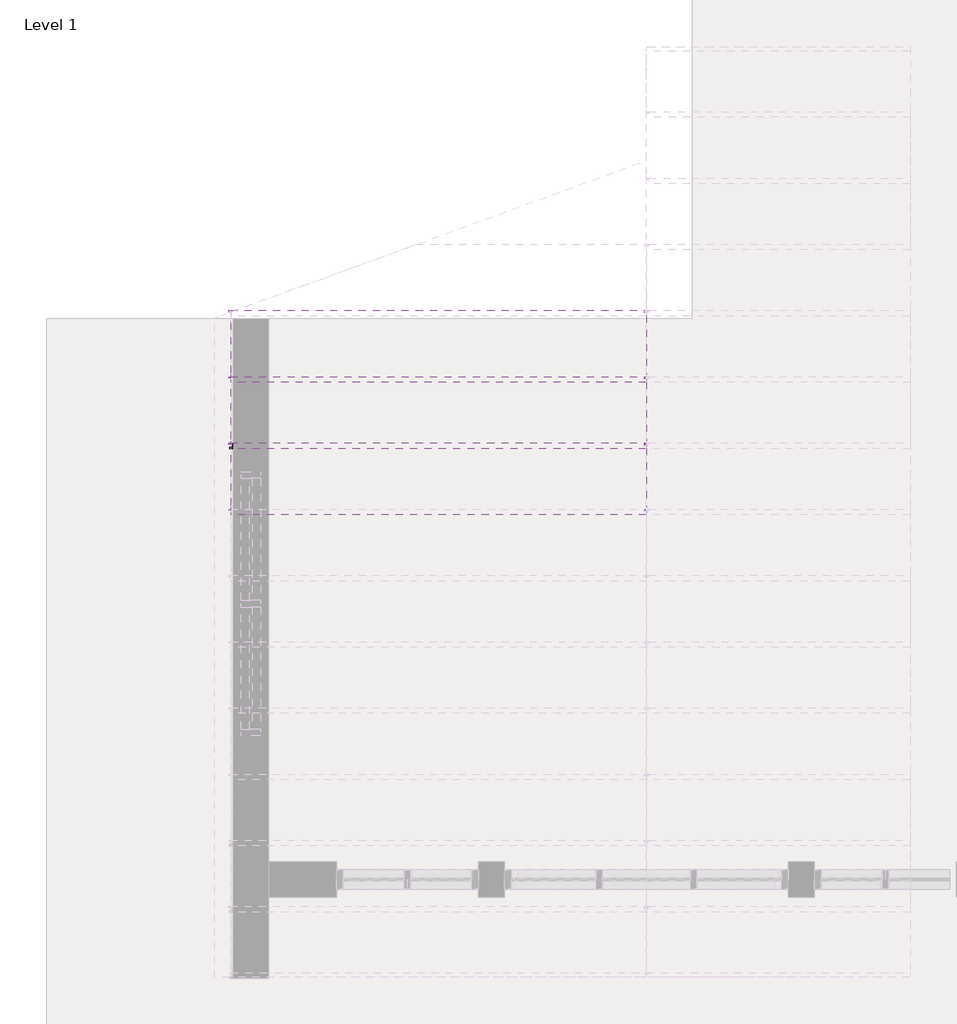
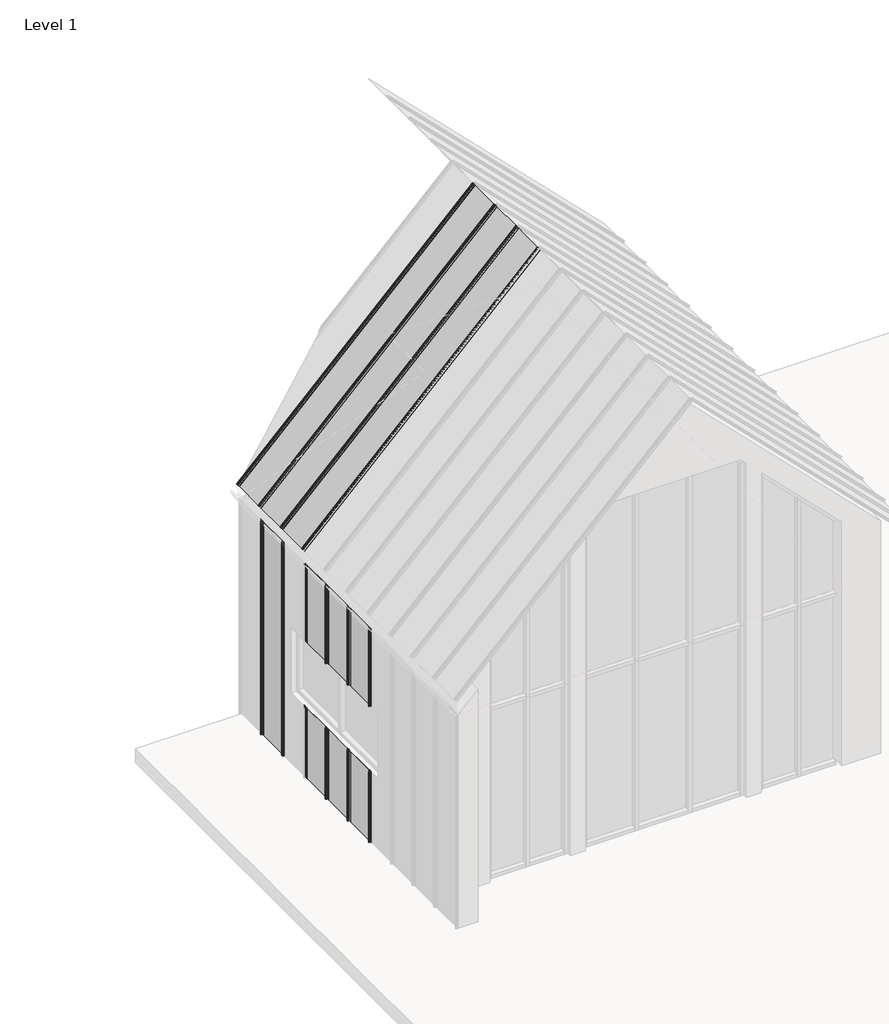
# One storey, part 4 of 22: 7 proxies.
"""IFC4 building model written with IfcOpenShell, lengths in millimetres."""

from ifc_helpers import new_model, si_unit, point, frame, frame_2d, origin, place, context, project, spatial, polyline, circle_curve, trimmed, segment, composite_curve, outline, extrude, transform, mapped, element, save
from components import aqua_8310e829, aqua_52c9d04e

model = new_model("IFC4")

# Units and contexts
model_context = context("Model", 3, world=origin())
ifc_project = project(units=[si_unit("LENGTHUNIT", "METRE", prefix="MILLI")], contexts=[model_context])

# Site, building, storey
site = spatial("IfcSite", under=ifc_project)
building = spatial("IfcBuilding", under=site)
storey = spatial("IfcBuildingStorey", under=building, Name="Level 1", Elevation=0.0)

# Proxies
placement = place(None, origin())
element("IfcBuildingElementProxy", 1, Name="AQUAPLAST - Panel Dachowy i Elewacyjny Aqua : Aqua", ObjectType="AQUAPLAST - Panel Dachowy i Elewacyjny Aqua : Aqua", at=placement, inside=storey, context=model_context, shape_type="SweptSolid", body=[
    extrude(outline(polyline([(-8422.863183, 10712.1494801), (-8422.863183, 11144.3495304), (-8422.063183, 11144.3495304), (-8422.063183, 10712.1494801), (-8422.863183, 10712.1494801)])), frame((0.0, 0.0, 2520.0), z_axis=(0.0, 0.0, 1.0), x_axis=(1.0, 0.0, 0.0)), (0.0, 0.0, 1.0), 1093.0),
    extrude(outline(polyline([(-8422.863183, 10712.1494801), (-8422.863183, 11144.3495304), (-8422.063183, 11144.3495304), (-8422.063183, 10712.1494801), (-8422.863183, 10712.1494801)])), frame((0.0, 0.0, 600.0), z_axis=(0.0, 0.0, 1.0), x_axis=(1.0, 0.0, 0.0)), (0.0, 0.0, 1.0), 998.0),
    extrude(outline(composite_curve([segment(polyline([(-8423.363153, 10684.2496455), (-8445.7635025, 10684.2496455)]), True, "CONTINUOUS"), segment(trimmed(circle_curve(frame_2d((-8445.7635025, 10683.7493222)), 0.5003233), [point((-8445.7635025, 10684.2496455))], [point((-8446.2638258, 10683.7493222))], True, "CARTESIAN"), True, "CONTINUOUS"), segment(polyline([(-8446.2638258, 10683.7493222), (-8446.2638258, 10673.2528028)]), True, "CONTINUOUS"), segment(trimmed(circle_curve(frame_2d((-8445.7625421, 10673.2528028)), 0.5012837), [point((-8446.2638258, 10673.2528028))], [point((-8445.7625421, 10672.7515191))], True, "CARTESIAN"), True, "CONTINUOUS"), segment(polyline([(-8445.7625421, 10672.7515191), (-8431.8481949, 10672.7515191)]), True, "CONTINUOUS"), segment(trimmed(circle_curve(frame_2d((-8431.8481949, 10673.6955317)), 0.9440125), [point((-8431.8481949, 10672.7515191))], [point((-8431.0110473, 10673.259248))], True, "CARTESIAN"), True, "CONTINUOUS"), segment(trimmed(circle_curve(frame_2d((-8427.4769676, 10672.7302878)), 3.5734462), [point((-8431.0110473, 10673.259248))], [point((-8423.9035214, 10672.7302878))], False, "CARTESIAN"), True, "CONTINUOUS"), segment(polyline([(-8423.9035214, 10672.7302878), (-8424.7037623, 10672.7302878)]), True, "CONTINUOUS"), segment(trimmed(circle_curve(frame_2d((-8427.4479694, 10672.7302878)), 2.7442071), [point((-8424.7037623, 10672.7302878))], [point((-8430.1921764, 10672.7302878))], True, "CARTESIAN"), True, "CONTINUOUS"), segment(trimmed(circle_curve(frame_2d((-8430.8671054, 10672.7244344)), 0.6749543), [point((-8430.1921764, 10672.7302878))], [point((-8430.8671054, 10672.0494801))], False, "CARTESIAN"), True, "CONTINUOUS"), segment(polyline([(-8430.8671054, 10672.0494801), (-8446.563183, 10672.0494801)]), True, "CONTINUOUS"), segment(trimmed(circle_curve(frame_2d((-8446.563183, 10672.5494801)), 0.5), [point((-8446.563183, 10672.0494801))], [point((-8447.063183, 10672.5494801))], False, "CARTESIAN"), True, "CONTINUOUS"), segment(polyline([(-8447.063183, 10672.5494801), (-8447.063183, 10684.5494801)]), True, "CONTINUOUS"), segment(trimmed(circle_curve(frame_2d((-8446.563183, 10684.5494801)), 0.5), [point((-8447.063183, 10684.5494801))], [point((-8446.563183, 10685.0494801))], False, "CARTESIAN"), True, "CONTINUOUS"), segment(polyline([(-8446.563183, 10685.0494801), (-8424.163183, 10685.0494801)]), True, "CONTINUOUS"), segment(trimmed(circle_curve(frame_2d((-8424.163183, 10685.5494801)), 0.5), [point((-8424.163183, 10685.0494801))], [point((-8423.663183, 10685.5494801))], True, "CARTESIAN"), True, "CONTINUOUS"), segment(polyline([(-8423.663183, 10685.5494801), (-8423.663183, 10708.6494801), (-8422.863183, 10712.1494801), (-8422.063183, 10712.1494801), (-8422.8632432, 10708.6494801), (-8422.8632432, 10684.7495553)]), True, "CONTINUOUS"), segment(trimmed(circle_curve(frame_2d((-8423.363153, 10684.7495553)), 0.4999098), [point((-8422.8632432, 10684.7495553))], [point((-8423.363153, 10684.2496455))], False, "CARTESIAN"), True, "CONTINUOUS")], self_intersect=False)), frame((0.0, 0.0, 600.0), z_axis=(0.0, 0.0, 1.0), x_axis=(1.0, 0.0, 0.0)), (0.0, 0.0, 1.0), 998.0),
    extrude(outline(composite_curve([segment(polyline([(-8422.863183, 10712.1494801), (-8422.063183, 10712.1494801), (-8422.8632432, 10708.6494801), (-8422.8632432, 10684.7495553)]), True, "CONTINUOUS"), segment(trimmed(circle_curve(frame_2d((-8423.363153, 10684.7495553)), 0.4999098), [point((-8422.8632432, 10684.7495553))], [point((-8423.363153, 10684.2496455))], False, "CARTESIAN"), True, "CONTINUOUS"), segment(polyline([(-8423.363153, 10684.2496455), (-8445.7635025, 10684.2496455)]), True, "CONTINUOUS"), segment(trimmed(circle_curve(frame_2d((-8445.7635025, 10683.7493222)), 0.5003233), [point((-8445.7635025, 10684.2496455))], [point((-8446.2638258, 10683.7493222))], True, "CARTESIAN"), True, "CONTINUOUS"), segment(polyline([(-8446.2638258, 10683.7493222), (-8446.2638258, 10673.2528028)]), True, "CONTINUOUS"), segment(trimmed(circle_curve(frame_2d((-8445.7625421, 10673.2528028)), 0.5012837), [point((-8446.2638258, 10673.2528028))], [point((-8445.7625421, 10672.7515191))], True, "CARTESIAN"), True, "CONTINUOUS"), segment(polyline([(-8445.7625421, 10672.7515191), (-8431.8481949, 10672.7515191)]), True, "CONTINUOUS"), segment(trimmed(circle_curve(frame_2d((-8431.8481949, 10673.6955317)), 0.9440125), [point((-8431.8481949, 10672.7515191))], [point((-8431.0110473, 10673.259248))], True, "CARTESIAN"), True, "CONTINUOUS"), segment(trimmed(circle_curve(frame_2d((-8427.4769676, 10672.7302878)), 3.5734462), [point((-8431.0110473, 10673.259248))], [point((-8423.9035214, 10672.7302878))], False, "CARTESIAN"), True, "CONTINUOUS"), segment(polyline([(-8423.9035214, 10672.7302878), (-8424.7037623, 10672.7302878)]), True, "CONTINUOUS"), segment(trimmed(circle_curve(frame_2d((-8427.4479694, 10672.7302878)), 2.7442071), [point((-8424.7037623, 10672.7302878))], [point((-8430.1921764, 10672.7302878))], True, "CARTESIAN"), True, "CONTINUOUS"), segment(trimmed(circle_curve(frame_2d((-8430.8671054, 10672.7244344)), 0.6749543), [point((-8430.1921764, 10672.7302878))], [point((-8430.8671054, 10672.0494801))], False, "CARTESIAN"), True, "CONTINUOUS"), segment(polyline([(-8430.8671054, 10672.0494801), (-8446.563183, 10672.0494801)]), True, "CONTINUOUS"), segment(trimmed(circle_curve(frame_2d((-8446.563183, 10672.5494801)), 0.5), [point((-8446.563183, 10672.0494801))], [point((-8447.063183, 10672.5494801))], False, "CARTESIAN"), True, "CONTINUOUS"), segment(polyline([(-8447.063183, 10672.5494801), (-8447.063183, 10684.5494801)]), True, "CONTINUOUS"), segment(trimmed(circle_curve(frame_2d((-8446.563183, 10684.5494801)), 0.5), [point((-8447.063183, 10684.5494801))], [point((-8446.563183, 10685.0494801))], False, "CARTESIAN"), True, "CONTINUOUS"), segment(polyline([(-8446.563183, 10685.0494801), (-8424.163183, 10685.0494801)]), True, "CONTINUOUS"), segment(trimmed(circle_curve(frame_2d((-8424.163183, 10685.5494801)), 0.5), [point((-8424.163183, 10685.0494801))], [point((-8423.663183, 10685.5494801))], True, "CARTESIAN"), True, "CONTINUOUS"), segment(polyline([(-8423.663183, 10685.5494801), (-8423.663183, 10708.6494801), (-8422.863183, 10712.1494801)]), True, "CONTINUOUS")], self_intersect=False)), frame((0.0, 0.0, 2520.0), z_axis=(0.0, 0.0, 1.0), x_axis=(1.0, 0.0, 0.0)), (0.0, 0.0, 1.0), 1093.0),
    extrude(outline(composite_curve([segment(polyline([(-8422.863183, 11217.0494801), (-8422.063183, 11217.0494801), (-8422.063183, 11185.7842474)]), True, "CONTINUOUS"), segment(trimmed(circle_curve(frame_2d((-8422.8032039, 11185.7842474)), 0.7400208), [point((-8422.063183, 11185.7842474))], [point((-8422.6873647, 11185.0533492))], False, "CARTESIAN"), True, "CONTINUOUS"), segment(polyline([(-8422.6873647, 11185.0533492), (-8440.5435157, 11182.2233498)]), True, "CONTINUOUS"), segment(trimmed(circle_curve(frame_2d((-8440.2450447, 11180.340119)), 1.9067363), [point((-8440.5435157, 11182.2233498))], [point((-8441.1984129, 11178.688837))], True, "CARTESIAN"), True, "CONTINUOUS"), segment(polyline([(-8441.1984129, 11178.688837), (-8433.9565909, 11175.7770733)]), True, "CONTINUOUS"), segment(trimmed(circle_curve(frame_2d((-8433.3308509, 11177.3333458)), 1.6773594), [point((-8433.9565909, 11175.7770733))], [point((-8431.8145704, 11176.6161094))], True, "CARTESIAN"), True, "CONTINUOUS"), segment(trimmed(circle_curve(frame_2d((-8427.5646191, 11174.6057822)), 4.7014361), [point((-8431.8145704, 11176.6161094))], [point((-8422.863183, 11174.6057822))], False, "CARTESIAN"), True, "CONTINUOUS"), segment(polyline([(-8422.863183, 11174.6057822), (-8422.863183, 11147.8495304), (-8422.063183, 11144.3495304), (-8422.863183, 11144.3495304), (-8423.663183, 11147.8495304), (-8423.663183, 11174.7649576)]), True, "CONTINUOUS"), segment(trimmed(circle_curve(frame_2d((-8427.5299142, 11174.7649576)), 3.8667311), [point((-8423.663183, 11174.7649576))], [point((-8431.0655924, 11176.3303934))], True, "CARTESIAN"), True, "CONTINUOUS"), segment(trimmed(circle_curve(frame_2d((-8433.3308509, 11177.3333458)), 2.4773594), [point((-8431.0655924, 11176.3303934))], [point((-8434.257346, 11175.0357565))], False, "CARTESIAN"), True, "CONTINUOUS"), segment(polyline([(-8434.257346, 11175.0357565), (-8441.5984129, 11177.9960166)]), True, "CONTINUOUS"), segment(trimmed(circle_curve(frame_2d((-8440.2450447, 11180.340119)), 2.7067363), [point((-8441.5984129, 11177.9960166))], [point((-8440.8285384, 11182.983215))], False, "CARTESIAN"), True, "CONTINUOUS"), segment(polyline([(-8440.8285384, 11182.983215), (-8423.4133146, 11186.0161717)]), True, "CONTINUOUS"), segment(trimmed(circle_curve(frame_2d((-8423.5272506, 11186.6703921)), 0.6640676), [point((-8423.4133146, 11186.0161717))], [point((-8422.863183, 11186.6703921))], True, "CARTESIAN"), True, "CONTINUOUS"), segment(polyline([(-8422.863183, 11186.6703921), (-8422.863183, 11217.0494801)]), True, "CONTINUOUS")], self_intersect=False)), frame((0.0, 0.0, 2520.0), z_axis=(0.0, 0.0, 1.0), x_axis=(1.0, 0.0, 0.0)), (0.0, 0.0, 1.0), 1093.0),
    extrude(outline(composite_curve([segment(polyline([(-8422.863183, 11217.0494801), (-8422.063183, 11217.0494801), (-8422.063183, 11185.7842474)]), True, "CONTINUOUS"), segment(trimmed(circle_curve(frame_2d((-8422.8032039, 11185.7842474)), 0.7400208), [point((-8422.063183, 11185.7842474))], [point((-8422.6873647, 11185.0533492))], False, "CARTESIAN"), True, "CONTINUOUS"), segment(polyline([(-8422.6873647, 11185.0533492), (-8440.5435157, 11182.2233498)]), True, "CONTINUOUS"), segment(trimmed(circle_curve(frame_2d((-8440.2450447, 11180.340119)), 1.9067363), [point((-8440.5435157, 11182.2233498))], [point((-8441.1984129, 11178.688837))], True, "CARTESIAN"), True, "CONTINUOUS"), segment(polyline([(-8441.1984129, 11178.688837), (-8433.9565909, 11175.7770733)]), True, "CONTINUOUS"), segment(trimmed(circle_curve(frame_2d((-8433.3308509, 11177.3333458)), 1.6773594), [point((-8433.9565909, 11175.7770733))], [point((-8431.8145704, 11176.6161094))], True, "CARTESIAN"), True, "CONTINUOUS"), segment(trimmed(circle_curve(frame_2d((-8427.5646191, 11174.6057822)), 4.7014361), [point((-8431.8145704, 11176.6161094))], [point((-8422.863183, 11174.6057822))], False, "CARTESIAN"), True, "CONTINUOUS"), segment(polyline([(-8422.863183, 11174.6057822), (-8422.863183, 11147.8495304), (-8422.063183, 11144.3495304), (-8422.863183, 11144.3495304), (-8423.663183, 11147.8495304), (-8423.663183, 11174.7649576)]), True, "CONTINUOUS"), segment(trimmed(circle_curve(frame_2d((-8427.5299142, 11174.7649576)), 3.8667311), [point((-8423.663183, 11174.7649576))], [point((-8431.0655924, 11176.3303934))], True, "CARTESIAN"), True, "CONTINUOUS"), segment(trimmed(circle_curve(frame_2d((-8433.3308509, 11177.3333458)), 2.4773594), [point((-8431.0655924, 11176.3303934))], [point((-8434.257346, 11175.0357565))], False, "CARTESIAN"), True, "CONTINUOUS"), segment(polyline([(-8434.257346, 11175.0357565), (-8441.5984129, 11177.9960166)]), True, "CONTINUOUS"), segment(trimmed(circle_curve(frame_2d((-8440.2450447, 11180.340119)), 2.7067363), [point((-8441.5984129, 11177.9960166))], [point((-8440.8285384, 11182.983215))], False, "CARTESIAN"), True, "CONTINUOUS"), segment(polyline([(-8440.8285384, 11182.983215), (-8423.4133146, 11186.0161717)]), True, "CONTINUOUS"), segment(trimmed(circle_curve(frame_2d((-8423.5272506, 11186.6703921)), 0.6640676), [point((-8423.4133146, 11186.0161717))], [point((-8422.863183, 11186.6703921))], True, "CARTESIAN"), True, "CONTINUOUS"), segment(polyline([(-8422.863183, 11186.6703921), (-8422.863183, 11217.0494801)]), True, "CONTINUOUS")], self_intersect=False)), frame((0.0, 0.0, 600.0), z_axis=(0.0, 0.0, 1.0), x_axis=(1.0, 0.0, 0.0)), (0.0, 0.0, 1.0), 998.0),
])
element("IfcBuildingElementProxy", 2, Name="AQUAPLAST - Panel Dachowy i Elewacyjny Aqua : Aqua", ObjectType="AQUAPLAST - Panel Dachowy i Elewacyjny Aqua : Aqua", at=placement, inside=storey, context=model_context, shape_type="SweptSolid", body=[
    extrude(outline(polyline([(-8422.863183, 11214.1494801), (-8422.863183, 11646.3495304), (-8422.063183, 11646.3495304), (-8422.063183, 11214.1494801), (-8422.863183, 11214.1494801)])), frame((0.0, 0.0, 2520.0), z_axis=(0.0, 0.0, 1.0), x_axis=(1.0, 0.0, 0.0)), (0.0, 0.0, 1.0), 1093.0),
    extrude(outline(polyline([(-8422.863183, 11214.1494801), (-8422.863183, 11646.3495304), (-8422.063183, 11646.3495304), (-8422.063183, 11214.1494801), (-8422.863183, 11214.1494801)])), frame((0.0, 0.0, 600.0), z_axis=(0.0, 0.0, 1.0), x_axis=(1.0, 0.0, 0.0)), (0.0, 0.0, 1.0), 998.0),
    extrude(outline(composite_curve([segment(polyline([(-8423.363153, 11186.2496455), (-8445.7635025, 11186.2496455)]), True, "CONTINUOUS"), segment(trimmed(circle_curve(frame_2d((-8445.7635025, 11185.7493222)), 0.5003233), [point((-8445.7635025, 11186.2496455))], [point((-8446.2638258, 11185.7493222))], True, "CARTESIAN"), True, "CONTINUOUS"), segment(polyline([(-8446.2638258, 11185.7493222), (-8446.2638258, 11175.2528028)]), True, "CONTINUOUS"), segment(trimmed(circle_curve(frame_2d((-8445.7625421, 11175.2528028)), 0.5012837), [point((-8446.2638258, 11175.2528028))], [point((-8445.7625421, 11174.7515191))], True, "CARTESIAN"), True, "CONTINUOUS"), segment(polyline([(-8445.7625421, 11174.7515191), (-8431.8481949, 11174.7515191)]), True, "CONTINUOUS"), segment(trimmed(circle_curve(frame_2d((-8431.8481949, 11175.6955317)), 0.9440125), [point((-8431.8481949, 11174.7515191))], [point((-8431.0110473, 11175.259248))], True, "CARTESIAN"), True, "CONTINUOUS"), segment(trimmed(circle_curve(frame_2d((-8427.4769676, 11174.7302878)), 3.5734462), [point((-8431.0110473, 11175.259248))], [point((-8423.9035214, 11174.7302878))], False, "CARTESIAN"), True, "CONTINUOUS"), segment(polyline([(-8423.9035214, 11174.7302878), (-8424.7037623, 11174.7302878)]), True, "CONTINUOUS"), segment(trimmed(circle_curve(frame_2d((-8427.4479694, 11174.7302878)), 2.7442071), [point((-8424.7037623, 11174.7302878))], [point((-8430.1921764, 11174.7302878))], True, "CARTESIAN"), True, "CONTINUOUS"), segment(trimmed(circle_curve(frame_2d((-8430.8671054, 11174.7244344)), 0.6749543), [point((-8430.1921764, 11174.7302878))], [point((-8430.8671054, 11174.0494801))], False, "CARTESIAN"), True, "CONTINUOUS"), segment(polyline([(-8430.8671054, 11174.0494801), (-8446.563183, 11174.0494801)]), True, "CONTINUOUS"), segment(trimmed(circle_curve(frame_2d((-8446.563183, 11174.5494801)), 0.5), [point((-8446.563183, 11174.0494801))], [point((-8447.063183, 11174.5494801))], False, "CARTESIAN"), True, "CONTINUOUS"), segment(polyline([(-8447.063183, 11174.5494801), (-8447.063183, 11186.5494801)]), True, "CONTINUOUS"), segment(trimmed(circle_curve(frame_2d((-8446.563183, 11186.5494801)), 0.5), [point((-8447.063183, 11186.5494801))], [point((-8446.563183, 11187.0494801))], False, "CARTESIAN"), True, "CONTINUOUS"), segment(polyline([(-8446.563183, 11187.0494801), (-8424.163183, 11187.0494801)]), True, "CONTINUOUS"), segment(trimmed(circle_curve(frame_2d((-8424.163183, 11187.5494801)), 0.5), [point((-8424.163183, 11187.0494801))], [point((-8423.663183, 11187.5494801))], True, "CARTESIAN"), True, "CONTINUOUS"), segment(polyline([(-8423.663183, 11187.5494801), (-8423.663183, 11210.6494801), (-8422.863183, 11214.1494801), (-8422.063183, 11214.1494801), (-8422.8632432, 11210.6494801), (-8422.8632432, 11186.7495553)]), True, "CONTINUOUS"), segment(trimmed(circle_curve(frame_2d((-8423.363153, 11186.7495553)), 0.4999098), [point((-8422.8632432, 11186.7495553))], [point((-8423.363153, 11186.2496455))], False, "CARTESIAN"), True, "CONTINUOUS")], self_intersect=False)), frame((0.0, 0.0, 600.0), z_axis=(0.0, 0.0, 1.0), x_axis=(1.0, 0.0, 0.0)), (0.0, 0.0, 1.0), 998.0),
    extrude(outline(composite_curve([segment(polyline([(-8422.863183, 11214.1494801), (-8422.063183, 11214.1494801), (-8422.8632432, 11210.6494801), (-8422.8632432, 11186.7495553)]), True, "CONTINUOUS"), segment(trimmed(circle_curve(frame_2d((-8423.363153, 11186.7495553)), 0.4999098), [point((-8422.8632432, 11186.7495553))], [point((-8423.363153, 11186.2496455))], False, "CARTESIAN"), True, "CONTINUOUS"), segment(polyline([(-8423.363153, 11186.2496455), (-8445.7635025, 11186.2496455)]), True, "CONTINUOUS"), segment(trimmed(circle_curve(frame_2d((-8445.7635025, 11185.7493222)), 0.5003233), [point((-8445.7635025, 11186.2496455))], [point((-8446.2638258, 11185.7493222))], True, "CARTESIAN"), True, "CONTINUOUS"), segment(polyline([(-8446.2638258, 11185.7493222), (-8446.2638258, 11175.2528028)]), True, "CONTINUOUS"), segment(trimmed(circle_curve(frame_2d((-8445.7625421, 11175.2528028)), 0.5012837), [point((-8446.2638258, 11175.2528028))], [point((-8445.7625421, 11174.7515191))], True, "CARTESIAN"), True, "CONTINUOUS"), segment(polyline([(-8445.7625421, 11174.7515191), (-8431.8481949, 11174.7515191)]), True, "CONTINUOUS"), segment(trimmed(circle_curve(frame_2d((-8431.8481949, 11175.6955317)), 0.9440125), [point((-8431.8481949, 11174.7515191))], [point((-8431.0110473, 11175.259248))], True, "CARTESIAN"), True, "CONTINUOUS"), segment(trimmed(circle_curve(frame_2d((-8427.4769676, 11174.7302878)), 3.5734462), [point((-8431.0110473, 11175.259248))], [point((-8423.9035214, 11174.7302878))], False, "CARTESIAN"), True, "CONTINUOUS"), segment(polyline([(-8423.9035214, 11174.7302878), (-8424.7037623, 11174.7302878)]), True, "CONTINUOUS"), segment(trimmed(circle_curve(frame_2d((-8427.4479694, 11174.7302878)), 2.7442071), [point((-8424.7037623, 11174.7302878))], [point((-8430.1921764, 11174.7302878))], True, "CARTESIAN"), True, "CONTINUOUS"), segment(trimmed(circle_curve(frame_2d((-8430.8671054, 11174.7244344)), 0.6749543), [point((-8430.1921764, 11174.7302878))], [point((-8430.8671054, 11174.0494801))], False, "CARTESIAN"), True, "CONTINUOUS"), segment(polyline([(-8430.8671054, 11174.0494801), (-8446.563183, 11174.0494801)]), True, "CONTINUOUS"), segment(trimmed(circle_curve(frame_2d((-8446.563183, 11174.5494801)), 0.5), [point((-8446.563183, 11174.0494801))], [point((-8447.063183, 11174.5494801))], False, "CARTESIAN"), True, "CONTINUOUS"), segment(polyline([(-8447.063183, 11174.5494801), (-8447.063183, 11186.5494801)]), True, "CONTINUOUS"), segment(trimmed(circle_curve(frame_2d((-8446.563183, 11186.5494801)), 0.5), [point((-8447.063183, 11186.5494801))], [point((-8446.563183, 11187.0494801))], False, "CARTESIAN"), True, "CONTINUOUS"), segment(polyline([(-8446.563183, 11187.0494801), (-8424.163183, 11187.0494801)]), True, "CONTINUOUS"), segment(trimmed(circle_curve(frame_2d((-8424.163183, 11187.5494801)), 0.5), [point((-8424.163183, 11187.0494801))], [point((-8423.663183, 11187.5494801))], True, "CARTESIAN"), True, "CONTINUOUS"), segment(polyline([(-8423.663183, 11187.5494801), (-8423.663183, 11210.6494801), (-8422.863183, 11214.1494801)]), True, "CONTINUOUS")], self_intersect=False)), frame((0.0, 0.0, 2520.0), z_axis=(0.0, 0.0, 1.0), x_axis=(1.0, 0.0, 0.0)), (0.0, 0.0, 1.0), 1093.0),
    extrude(outline(composite_curve([segment(polyline([(-8422.863183, 11719.0494801), (-8422.063183, 11719.0494801), (-8422.063183, 11687.7842474)]), True, "CONTINUOUS"), segment(trimmed(circle_curve(frame_2d((-8422.8032039, 11687.7842474)), 0.7400208), [point((-8422.063183, 11687.7842474))], [point((-8422.6873647, 11687.0533492))], False, "CARTESIAN"), True, "CONTINUOUS"), segment(polyline([(-8422.6873647, 11687.0533492), (-8440.5435157, 11684.2233498)]), True, "CONTINUOUS"), segment(trimmed(circle_curve(frame_2d((-8440.2450447, 11682.340119)), 1.9067363), [point((-8440.5435157, 11684.2233498))], [point((-8441.1984129, 11680.688837))], True, "CARTESIAN"), True, "CONTINUOUS"), segment(polyline([(-8441.1984129, 11680.688837), (-8433.9565909, 11677.7770733)]), True, "CONTINUOUS"), segment(trimmed(circle_curve(frame_2d((-8433.3308509, 11679.3333458)), 1.6773594), [point((-8433.9565909, 11677.7770733))], [point((-8431.8145704, 11678.6161094))], True, "CARTESIAN"), True, "CONTINUOUS"), segment(trimmed(circle_curve(frame_2d((-8427.5646191, 11676.6057822)), 4.7014361), [point((-8431.8145704, 11678.6161094))], [point((-8422.863183, 11676.6057822))], False, "CARTESIAN"), True, "CONTINUOUS"), segment(polyline([(-8422.863183, 11676.6057822), (-8422.863183, 11649.8495304), (-8422.063183, 11646.3495304), (-8422.863183, 11646.3495304), (-8423.663183, 11649.8495304), (-8423.663183, 11676.7649576)]), True, "CONTINUOUS"), segment(trimmed(circle_curve(frame_2d((-8427.5299142, 11676.7649576)), 3.8667311), [point((-8423.663183, 11676.7649576))], [point((-8431.0655924, 11678.3303934))], True, "CARTESIAN"), True, "CONTINUOUS"), segment(trimmed(circle_curve(frame_2d((-8433.3308509, 11679.3333458)), 2.4773594), [point((-8431.0655924, 11678.3303934))], [point((-8434.257346, 11677.0357565))], False, "CARTESIAN"), True, "CONTINUOUS"), segment(polyline([(-8434.257346, 11677.0357565), (-8441.5984129, 11679.9960166)]), True, "CONTINUOUS"), segment(trimmed(circle_curve(frame_2d((-8440.2450447, 11682.340119)), 2.7067363), [point((-8441.5984129, 11679.9960166))], [point((-8440.8285384, 11684.983215))], False, "CARTESIAN"), True, "CONTINUOUS"), segment(polyline([(-8440.8285384, 11684.983215), (-8423.4133146, 11688.0161717)]), True, "CONTINUOUS"), segment(trimmed(circle_curve(frame_2d((-8423.5272506, 11688.6703921)), 0.6640676), [point((-8423.4133146, 11688.0161717))], [point((-8422.863183, 11688.6703921))], True, "CARTESIAN"), True, "CONTINUOUS"), segment(polyline([(-8422.863183, 11688.6703921), (-8422.863183, 11719.0494801)]), True, "CONTINUOUS")], self_intersect=False)), frame((0.0, 0.0, 2520.0), z_axis=(0.0, 0.0, 1.0), x_axis=(1.0, 0.0, 0.0)), (0.0, 0.0, 1.0), 1093.0),
    extrude(outline(composite_curve([segment(polyline([(-8422.863183, 11719.0494801), (-8422.063183, 11719.0494801), (-8422.063183, 11687.7842474)]), True, "CONTINUOUS"), segment(trimmed(circle_curve(frame_2d((-8422.8032039, 11687.7842474)), 0.7400208), [point((-8422.063183, 11687.7842474))], [point((-8422.6873647, 11687.0533492))], False, "CARTESIAN"), True, "CONTINUOUS"), segment(polyline([(-8422.6873647, 11687.0533492), (-8440.5435157, 11684.2233498)]), True, "CONTINUOUS"), segment(trimmed(circle_curve(frame_2d((-8440.2450447, 11682.340119)), 1.9067363), [point((-8440.5435157, 11684.2233498))], [point((-8441.1984129, 11680.688837))], True, "CARTESIAN"), True, "CONTINUOUS"), segment(polyline([(-8441.1984129, 11680.688837), (-8433.9565909, 11677.7770733)]), True, "CONTINUOUS"), segment(trimmed(circle_curve(frame_2d((-8433.3308509, 11679.3333458)), 1.6773594), [point((-8433.9565909, 11677.7770733))], [point((-8431.8145704, 11678.6161094))], True, "CARTESIAN"), True, "CONTINUOUS"), segment(trimmed(circle_curve(frame_2d((-8427.5646191, 11676.6057822)), 4.7014361), [point((-8431.8145704, 11678.6161094))], [point((-8422.863183, 11676.6057822))], False, "CARTESIAN"), True, "CONTINUOUS"), segment(polyline([(-8422.863183, 11676.6057822), (-8422.863183, 11649.8495304), (-8422.063183, 11646.3495304), (-8422.863183, 11646.3495304), (-8423.663183, 11649.8495304), (-8423.663183, 11676.7649576)]), True, "CONTINUOUS"), segment(trimmed(circle_curve(frame_2d((-8427.5299142, 11676.7649576)), 3.8667311), [point((-8423.663183, 11676.7649576))], [point((-8431.0655924, 11678.3303934))], True, "CARTESIAN"), True, "CONTINUOUS"), segment(trimmed(circle_curve(frame_2d((-8433.3308509, 11679.3333458)), 2.4773594), [point((-8431.0655924, 11678.3303934))], [point((-8434.257346, 11677.0357565))], False, "CARTESIAN"), True, "CONTINUOUS"), segment(polyline([(-8434.257346, 11677.0357565), (-8441.5984129, 11679.9960166)]), True, "CONTINUOUS"), segment(trimmed(circle_curve(frame_2d((-8440.2450447, 11682.340119)), 2.7067363), [point((-8441.5984129, 11679.9960166))], [point((-8440.8285384, 11684.983215))], False, "CARTESIAN"), True, "CONTINUOUS"), segment(polyline([(-8440.8285384, 11684.983215), (-8423.4133146, 11688.0161717)]), True, "CONTINUOUS"), segment(trimmed(circle_curve(frame_2d((-8423.5272506, 11688.6703921)), 0.6640676), [point((-8423.4133146, 11688.0161717))], [point((-8422.863183, 11688.6703921))], True, "CARTESIAN"), True, "CONTINUOUS"), segment(polyline([(-8422.863183, 11688.6703921), (-8422.863183, 11719.0494801)]), True, "CONTINUOUS")], self_intersect=False)), frame((0.0, 0.0, 600.0), z_axis=(0.0, 0.0, 1.0), x_axis=(1.0, 0.0, 0.0)), (0.0, 0.0, 1.0), 998.0),
])
element("IfcBuildingElementProxy", 3, Name="AQUAPLAST - Panel Dachowy i Elewacyjny Aqua : Aqua", ObjectType="AQUAPLAST - Panel Dachowy i Elewacyjny Aqua : Aqua", at=placement, inside=storey, context=model_context, shape_type="SweptSolid", body=[
    extrude(outline(polyline([(-8422.863183, 11716.1494801), (-8422.863183, 12148.3495304), (-8422.063183, 12148.3495304), (-8422.063183, 11716.1494801), (-8422.863183, 11716.1494801)])), frame((0.0, 0.0, 2520.0), z_axis=(0.0, 0.0, 1.0), x_axis=(1.0, 0.0, 0.0)), (0.0, 0.0, 1.0), 1093.0),
    extrude(outline(polyline([(-8422.863183, 11716.1494801), (-8422.863183, 12148.3495304), (-8422.063183, 12148.3495304), (-8422.063183, 11716.1494801), (-8422.863183, 11716.1494801)])), frame((0.0, 0.0, 600.0), z_axis=(0.0, 0.0, 1.0), x_axis=(1.0, 0.0, 0.0)), (0.0, 0.0, 1.0), 998.0),
    extrude(outline(composite_curve([segment(polyline([(-8423.363153, 11688.2496455), (-8445.7635025, 11688.2496455)]), True, "CONTINUOUS"), segment(trimmed(circle_curve(frame_2d((-8445.7635025, 11687.7493222)), 0.5003233), [point((-8445.7635025, 11688.2496455))], [point((-8446.2638258, 11687.7493222))], True, "CARTESIAN"), True, "CONTINUOUS"), segment(polyline([(-8446.2638258, 11687.7493222), (-8446.2638258, 11677.2528028)]), True, "CONTINUOUS"), segment(trimmed(circle_curve(frame_2d((-8445.7625421, 11677.2528028)), 0.5012837), [point((-8446.2638258, 11677.2528028))], [point((-8445.7625421, 11676.7515191))], True, "CARTESIAN"), True, "CONTINUOUS"), segment(polyline([(-8445.7625421, 11676.7515191), (-8431.8481949, 11676.7515191)]), True, "CONTINUOUS"), segment(trimmed(circle_curve(frame_2d((-8431.8481949, 11677.6955317)), 0.9440125), [point((-8431.8481949, 11676.7515191))], [point((-8431.0110473, 11677.259248))], True, "CARTESIAN"), True, "CONTINUOUS"), segment(trimmed(circle_curve(frame_2d((-8427.4769676, 11676.7302878)), 3.5734462), [point((-8431.0110473, 11677.259248))], [point((-8423.9035214, 11676.7302878))], False, "CARTESIAN"), True, "CONTINUOUS"), segment(polyline([(-8423.9035214, 11676.7302878), (-8424.7037623, 11676.7302878)]), True, "CONTINUOUS"), segment(trimmed(circle_curve(frame_2d((-8427.4479694, 11676.7302878)), 2.7442071), [point((-8424.7037623, 11676.7302878))], [point((-8430.1921764, 11676.7302878))], True, "CARTESIAN"), True, "CONTINUOUS"), segment(trimmed(circle_curve(frame_2d((-8430.8671054, 11676.7244344)), 0.6749543), [point((-8430.1921764, 11676.7302878))], [point((-8430.8671054, 11676.0494801))], False, "CARTESIAN"), True, "CONTINUOUS"), segment(polyline([(-8430.8671054, 11676.0494801), (-8446.563183, 11676.0494801)]), True, "CONTINUOUS"), segment(trimmed(circle_curve(frame_2d((-8446.563183, 11676.5494801)), 0.5), [point((-8446.563183, 11676.0494801))], [point((-8447.063183, 11676.5494801))], False, "CARTESIAN"), True, "CONTINUOUS"), segment(polyline([(-8447.063183, 11676.5494801), (-8447.063183, 11688.5494801)]), True, "CONTINUOUS"), segment(trimmed(circle_curve(frame_2d((-8446.563183, 11688.5494801)), 0.5), [point((-8447.063183, 11688.5494801))], [point((-8446.563183, 11689.0494801))], False, "CARTESIAN"), True, "CONTINUOUS"), segment(polyline([(-8446.563183, 11689.0494801), (-8424.163183, 11689.0494801)]), True, "CONTINUOUS"), segment(trimmed(circle_curve(frame_2d((-8424.163183, 11689.5494801)), 0.5), [point((-8424.163183, 11689.0494801))], [point((-8423.663183, 11689.5494801))], True, "CARTESIAN"), True, "CONTINUOUS"), segment(polyline([(-8423.663183, 11689.5494801), (-8423.663183, 11712.6494801), (-8422.863183, 11716.1494801), (-8422.063183, 11716.1494801), (-8422.8632432, 11712.6494801), (-8422.8632432, 11688.7495553)]), True, "CONTINUOUS"), segment(trimmed(circle_curve(frame_2d((-8423.363153, 11688.7495553)), 0.4999098), [point((-8422.8632432, 11688.7495553))], [point((-8423.363153, 11688.2496455))], False, "CARTESIAN"), True, "CONTINUOUS")], self_intersect=False)), frame((0.0, 0.0, 600.0), z_axis=(0.0, 0.0, 1.0), x_axis=(1.0, 0.0, 0.0)), (0.0, 0.0, 1.0), 998.0),
    extrude(outline(composite_curve([segment(polyline([(-8422.863183, 11716.1494801), (-8422.063183, 11716.1494801), (-8422.8632432, 11712.6494801), (-8422.8632432, 11688.7495553)]), True, "CONTINUOUS"), segment(trimmed(circle_curve(frame_2d((-8423.363153, 11688.7495553)), 0.4999098), [point((-8422.8632432, 11688.7495553))], [point((-8423.363153, 11688.2496455))], False, "CARTESIAN"), True, "CONTINUOUS"), segment(polyline([(-8423.363153, 11688.2496455), (-8445.7635025, 11688.2496455)]), True, "CONTINUOUS"), segment(trimmed(circle_curve(frame_2d((-8445.7635025, 11687.7493222)), 0.5003233), [point((-8445.7635025, 11688.2496455))], [point((-8446.2638258, 11687.7493222))], True, "CARTESIAN"), True, "CONTINUOUS"), segment(polyline([(-8446.2638258, 11687.7493222), (-8446.2638258, 11677.2528028)]), True, "CONTINUOUS"), segment(trimmed(circle_curve(frame_2d((-8445.7625421, 11677.2528028)), 0.5012837), [point((-8446.2638258, 11677.2528028))], [point((-8445.7625421, 11676.7515191))], True, "CARTESIAN"), True, "CONTINUOUS"), segment(polyline([(-8445.7625421, 11676.7515191), (-8431.8481949, 11676.7515191)]), True, "CONTINUOUS"), segment(trimmed(circle_curve(frame_2d((-8431.8481949, 11677.6955317)), 0.9440125), [point((-8431.8481949, 11676.7515191))], [point((-8431.0110473, 11677.259248))], True, "CARTESIAN"), True, "CONTINUOUS"), segment(trimmed(circle_curve(frame_2d((-8427.4769676, 11676.7302878)), 3.5734462), [point((-8431.0110473, 11677.259248))], [point((-8423.9035214, 11676.7302878))], False, "CARTESIAN"), True, "CONTINUOUS"), segment(polyline([(-8423.9035214, 11676.7302878), (-8424.7037623, 11676.7302878)]), True, "CONTINUOUS"), segment(trimmed(circle_curve(frame_2d((-8427.4479694, 11676.7302878)), 2.7442071), [point((-8424.7037623, 11676.7302878))], [point((-8430.1921764, 11676.7302878))], True, "CARTESIAN"), True, "CONTINUOUS"), segment(trimmed(circle_curve(frame_2d((-8430.8671054, 11676.7244344)), 0.6749543), [point((-8430.1921764, 11676.7302878))], [point((-8430.8671054, 11676.0494801))], False, "CARTESIAN"), True, "CONTINUOUS"), segment(polyline([(-8430.8671054, 11676.0494801), (-8446.563183, 11676.0494801)]), True, "CONTINUOUS"), segment(trimmed(circle_curve(frame_2d((-8446.563183, 11676.5494801)), 0.5), [point((-8446.563183, 11676.0494801))], [point((-8447.063183, 11676.5494801))], False, "CARTESIAN"), True, "CONTINUOUS"), segment(polyline([(-8447.063183, 11676.5494801), (-8447.063183, 11688.5494801)]), True, "CONTINUOUS"), segment(trimmed(circle_curve(frame_2d((-8446.563183, 11688.5494801)), 0.5), [point((-8447.063183, 11688.5494801))], [point((-8446.563183, 11689.0494801))], False, "CARTESIAN"), True, "CONTINUOUS"), segment(polyline([(-8446.563183, 11689.0494801), (-8424.163183, 11689.0494801)]), True, "CONTINUOUS"), segment(trimmed(circle_curve(frame_2d((-8424.163183, 11689.5494801)), 0.5), [point((-8424.163183, 11689.0494801))], [point((-8423.663183, 11689.5494801))], True, "CARTESIAN"), True, "CONTINUOUS"), segment(polyline([(-8423.663183, 11689.5494801), (-8423.663183, 11712.6494801), (-8422.863183, 11716.1494801)]), True, "CONTINUOUS")], self_intersect=False)), frame((0.0, 0.0, 2520.0), z_axis=(0.0, 0.0, 1.0), x_axis=(1.0, 0.0, 0.0)), (0.0, 0.0, 1.0), 1093.0),
    extrude(outline(composite_curve([segment(polyline([(-8422.863183, 12221.0494801), (-8422.063183, 12221.0494801), (-8422.063183, 12189.7842474)]), True, "CONTINUOUS"), segment(trimmed(circle_curve(frame_2d((-8422.8032039, 12189.7842474)), 0.7400208), [point((-8422.063183, 12189.7842474))], [point((-8422.6873647, 12189.0533492))], False, "CARTESIAN"), True, "CONTINUOUS"), segment(polyline([(-8422.6873647, 12189.0533492), (-8440.5435157, 12186.2233498)]), True, "CONTINUOUS"), segment(trimmed(circle_curve(frame_2d((-8440.2450447, 12184.340119)), 1.9067363), [point((-8440.5435157, 12186.2233498))], [point((-8441.1984129, 12182.688837))], True, "CARTESIAN"), True, "CONTINUOUS"), segment(polyline([(-8441.1984129, 12182.688837), (-8433.9565909, 12179.7770733)]), True, "CONTINUOUS"), segment(trimmed(circle_curve(frame_2d((-8433.3308509, 12181.3333458)), 1.6773594), [point((-8433.9565909, 12179.7770733))], [point((-8431.8145704, 12180.6161094))], True, "CARTESIAN"), True, "CONTINUOUS"), segment(trimmed(circle_curve(frame_2d((-8427.5646191, 12178.6057822)), 4.7014361), [point((-8431.8145704, 12180.6161094))], [point((-8422.863183, 12178.6057822))], False, "CARTESIAN"), True, "CONTINUOUS"), segment(polyline([(-8422.863183, 12178.6057822), (-8422.863183, 12151.8495304), (-8422.063183, 12148.3495304), (-8422.863183, 12148.3495304), (-8423.663183, 12151.8495304), (-8423.663183, 12178.7649576)]), True, "CONTINUOUS"), segment(trimmed(circle_curve(frame_2d((-8427.5299142, 12178.7649576)), 3.8667311), [point((-8423.663183, 12178.7649576))], [point((-8431.0655924, 12180.3303934))], True, "CARTESIAN"), True, "CONTINUOUS"), segment(trimmed(circle_curve(frame_2d((-8433.3308509, 12181.3333458)), 2.4773594), [point((-8431.0655924, 12180.3303934))], [point((-8434.257346, 12179.0357565))], False, "CARTESIAN"), True, "CONTINUOUS"), segment(polyline([(-8434.257346, 12179.0357565), (-8441.5984129, 12181.9960166)]), True, "CONTINUOUS"), segment(trimmed(circle_curve(frame_2d((-8440.2450447, 12184.340119)), 2.7067363), [point((-8441.5984129, 12181.9960166))], [point((-8440.8285384, 12186.983215))], False, "CARTESIAN"), True, "CONTINUOUS"), segment(polyline([(-8440.8285384, 12186.983215), (-8423.4133146, 12190.0161717)]), True, "CONTINUOUS"), segment(trimmed(circle_curve(frame_2d((-8423.5272506, 12190.6703921)), 0.6640676), [point((-8423.4133146, 12190.0161717))], [point((-8422.863183, 12190.6703921))], True, "CARTESIAN"), True, "CONTINUOUS"), segment(polyline([(-8422.863183, 12190.6703921), (-8422.863183, 12221.0494801)]), True, "CONTINUOUS")], self_intersect=False)), frame((0.0, 0.0, 2520.0), z_axis=(0.0, 0.0, 1.0), x_axis=(1.0, 0.0, 0.0)), (0.0, 0.0, 1.0), 1093.0),
    extrude(outline(composite_curve([segment(polyline([(-8422.863183, 12221.0494801), (-8422.063183, 12221.0494801), (-8422.063183, 12189.7842474)]), True, "CONTINUOUS"), segment(trimmed(circle_curve(frame_2d((-8422.8032039, 12189.7842474)), 0.7400208), [point((-8422.063183, 12189.7842474))], [point((-8422.6873647, 12189.0533492))], False, "CARTESIAN"), True, "CONTINUOUS"), segment(polyline([(-8422.6873647, 12189.0533492), (-8440.5435157, 12186.2233498)]), True, "CONTINUOUS"), segment(trimmed(circle_curve(frame_2d((-8440.2450447, 12184.340119)), 1.9067363), [point((-8440.5435157, 12186.2233498))], [point((-8441.1984129, 12182.688837))], True, "CARTESIAN"), True, "CONTINUOUS"), segment(polyline([(-8441.1984129, 12182.688837), (-8433.9565909, 12179.7770733)]), True, "CONTINUOUS"), segment(trimmed(circle_curve(frame_2d((-8433.3308509, 12181.3333458)), 1.6773594), [point((-8433.9565909, 12179.7770733))], [point((-8431.8145704, 12180.6161094))], True, "CARTESIAN"), True, "CONTINUOUS"), segment(trimmed(circle_curve(frame_2d((-8427.5646191, 12178.6057822)), 4.7014361), [point((-8431.8145704, 12180.6161094))], [point((-8422.863183, 12178.6057822))], False, "CARTESIAN"), True, "CONTINUOUS"), segment(polyline([(-8422.863183, 12178.6057822), (-8422.863183, 12151.8495304), (-8422.063183, 12148.3495304), (-8422.863183, 12148.3495304), (-8423.663183, 12151.8495304), (-8423.663183, 12178.7649576)]), True, "CONTINUOUS"), segment(trimmed(circle_curve(frame_2d((-8427.5299142, 12178.7649576)), 3.8667311), [point((-8423.663183, 12178.7649576))], [point((-8431.0655924, 12180.3303934))], True, "CARTESIAN"), True, "CONTINUOUS"), segment(trimmed(circle_curve(frame_2d((-8433.3308509, 12181.3333458)), 2.4773594), [point((-8431.0655924, 12180.3303934))], [point((-8434.257346, 12179.0357565))], False, "CARTESIAN"), True, "CONTINUOUS"), segment(polyline([(-8434.257346, 12179.0357565), (-8441.5984129, 12181.9960166)]), True, "CONTINUOUS"), segment(trimmed(circle_curve(frame_2d((-8440.2450447, 12184.340119)), 2.7067363), [point((-8441.5984129, 12181.9960166))], [point((-8440.8285384, 12186.983215))], False, "CARTESIAN"), True, "CONTINUOUS"), segment(polyline([(-8440.8285384, 12186.983215), (-8423.4133146, 12190.0161717)]), True, "CONTINUOUS"), segment(trimmed(circle_curve(frame_2d((-8423.5272506, 12190.6703921)), 0.6640676), [point((-8423.4133146, 12190.0161717))], [point((-8422.863183, 12190.6703921))], True, "CARTESIAN"), True, "CONTINUOUS"), segment(polyline([(-8422.863183, 12190.6703921), (-8422.863183, 12221.0494801)]), True, "CONTINUOUS")], self_intersect=False)), frame((0.0, 0.0, 600.0), z_axis=(0.0, 0.0, 1.0), x_axis=(1.0, 0.0, 0.0)), (0.0, 0.0, 1.0), 998.0),
])
aqua_shape = aqua_8310e829(model_context)
element("IfcBuildingElementProxy", 4, Name="AQUAPLAST - Panel Dachowy i Elewacyjny Aqua : Aqua", ObjectType="AQUAPLAST - Panel Dachowy i Elewacyjny Aqua : Aqua", at=placement, inside=storey, context=model_context, shape_type="MappedRepresentation", body=[
    mapped(aqua_shape, transform((-8437.063183, 12449.6302878, 3795.9898987), x_axis=(0.0, -1.0, 0.0), y_axis=(0.7071067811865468, 0.0, 0.7071067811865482), z_axis=(-0.7071067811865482, 0.0, 0.7071067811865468))),
])
element("IfcBuildingElementProxy", 5, Name="AQUAPLAST - Panel Dachowy i Elewacyjny Aqua : Aqua", ObjectType="AQUAPLAST - Panel Dachowy i Elewacyjny Aqua : Aqua", at=placement, inside=storey, context=model_context, shape_type="MappedRepresentation", body=[
    mapped(aqua_shape, transform((-8437.063183, 12951.6302878, 3795.9898987), x_axis=(0.0, -1.0, 0.0), y_axis=(0.7071067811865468, 0.0, 0.7071067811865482), z_axis=(-0.7071067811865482, 0.0, 0.7071067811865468))),
])
element("IfcBuildingElementProxy", 6, Name="AQUAPLAST - Panel Dachowy i Elewacyjny Aqua : Aqua", ObjectType="AQUAPLAST - Panel Dachowy i Elewacyjny Aqua : Aqua", at=placement, inside=storey, context=model_context, shape_type="MappedRepresentation", body=[
    mapped(aqua_shape, transform((-8437.063183, 13453.6302878, 3795.9898987), x_axis=(0.0, -1.0, 0.0), y_axis=(0.7071067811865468, 0.0, 0.7071067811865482), z_axis=(-0.7071067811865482, 0.0, 0.7071067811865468))),
])
aqua_2_shape = aqua_52c9d04e(model_context)
element("IfcBuildingElementProxy", 7, Name="AQUAPLAST - Panel Dachowy i Elewacyjny Aqua : Aqua", ObjectType="AQUAPLAST - Panel Dachowy i Elewacyjny Aqua : Aqua", at=placement, inside=storey, context=model_context, shape_type="MappedRepresentation", body=[
    mapped(aqua_2_shape, transform((-8422.063183, 12954.1494801, 600.0), x_axis=(0.0, 1.0, 0.0), y_axis=(0.0, 0.0, -1.0), z_axis=(-1.0, 0.0, 0.0))),
])

save(model, "model.ifc")
